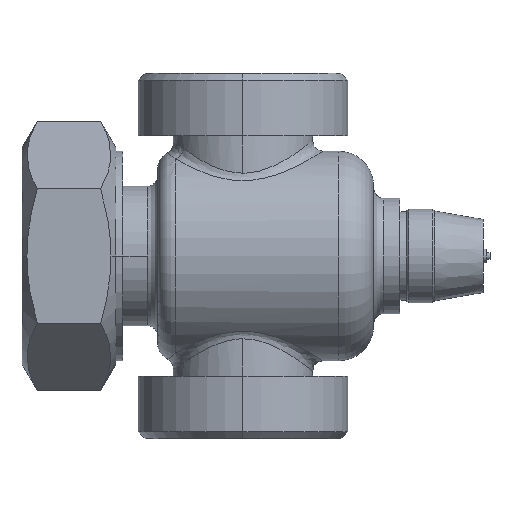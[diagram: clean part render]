
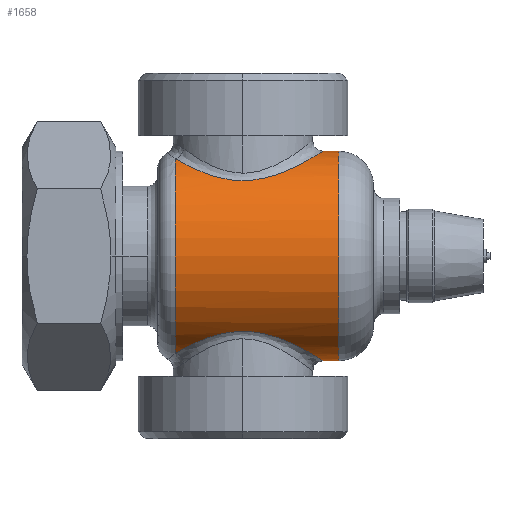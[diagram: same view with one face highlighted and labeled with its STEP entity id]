
A CAD part, left-side view. The second image highlights one B-rep face of the part: STEP entity #1658.
In plain terms, the highlighted cylindrical face has radius 30.109 mm (diameter 60.218 mm), a partial arc.
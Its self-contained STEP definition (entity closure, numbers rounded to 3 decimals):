
#936=CARTESIAN_POINT('',(0.,-23.,22.391));
#937=VERTEX_POINT('',#936);
#938=CARTESIAN_POINT('',(0.,-27.514,22.391));
#939=VERTEX_POINT('',#938);
#940=CARTESIAN_POINT('',(0.,-23.,22.391));
#941=DIRECTION('',(0.0,-1.0,0.0));
#942=VECTOR('',#941,4.514);
#943=LINE('',#940,#942);
#944=EDGE_CURVE('',#937,#939,#943,.T.);
#972=CARTESIAN_POINT('',(0.,-23.,82.609));
#973=VERTEX_POINT('',#972);
#995=CARTESIAN_POINT('',(0.,-27.514,82.609));
#996=VERTEX_POINT('',#995);
#997=CARTESIAN_POINT('',(0.,-27.514,82.609));
#998=DIRECTION('',(0.0,1.0,0.0));
#999=VECTOR('',#998,4.514);
#1000=LINE('',#997,#999);
#1001=EDGE_CURVE('',#996,#973,#1000,.T.);
#1581=CARTESIAN_POINT('',(0.,-27.514,52.5));
#1582=DIRECTION('',(0.0,-1.0,0.0));
#1583=DIRECTION('',(-1.0,0.0,0.0));
#1584=AXIS2_PLACEMENT_3D('',#1581,#1582,#1583);
#1585=CIRCLE('',#1584,30.109);
#1586=EDGE_CURVE('',#996,#939,#1585,.T.);
#1593=CARTESIAN_POINT('',(0.,-8.94,52.5));
#1594=DIRECTION('',(0.0,-1.0,0.));
#1595=DIRECTION('',(0.0,0.0,-1.0));
#1596=AXIS2_PLACEMENT_3D('',#1593,#1594,#1595);
#1597=CYLINDRICAL_SURFACE('',#1596,30.109);
#1598=ORIENTED_EDGE('',*,*,#944,.T.);
#1599=ORIENTED_EDGE('',*,*,#1586,.F.);
#1600=ORIENTED_EDGE('',*,*,#1001,.T.);
#1601=CARTESIAN_POINT('',(-11.082,19.507,80.496));
#1602=VERTEX_POINT('',#1601);
#1603=CARTESIAN_POINT('',(0.,-23.,82.609));
#1604=CARTESIAN_POINT('',(-0.005,-23.,82.609));
#1605=CARTESIAN_POINT('',(-0.01,-23.,82.609));
#1606=CARTESIAN_POINT('',(-1.623,-22.999,82.608));
#1607=CARTESIAN_POINT('',(-3.229,-22.792,82.477));
#1608=CARTESIAN_POINT('',(-7.259,-21.752,81.829));
#1609=CARTESIAN_POINT('',(-9.573,-20.623,81.13));
#1610=CARTESIAN_POINT('',(-14.547,-16.98,79.055));
#1611=CARTESIAN_POINT('',(-16.925,-14.07,77.489));
#1612=CARTESIAN_POINT('',(-20.33,-6.856,74.822));
#1613=CARTESIAN_POINT('',(-21.192,-2.357,73.894));
#1614=CARTESIAN_POINT('',(-20.527,5.793,74.531));
#1615=CARTESIAN_POINT('',(-19.394,9.307,75.628));
#1616=CARTESIAN_POINT('',(-16.01,15.195,78.083));
#1617=CARTESIAN_POINT('',(-13.767,17.662,79.433));
#1618=CARTESIAN_POINT('',(-11.082,19.507,80.496));
#1619=B_SPLINE_CURVE_WITH_KNOTS('',3,(#1603,#1604,#1605,#1606,#1607,#1608,#1609,#1610,#1611,#1612,#1613,#1614,#1615,#1616,#1617,#1618),.UNSPECIFIED.,.F.,.U.,(4,2,2,2,2,2,2,4),(61.748,61.764,67.06,75.533,87.911,101.23,112.513,123.529),.UNSPECIFIED.);
#1620=EDGE_CURVE('',#1602,#973,#1619,.F.);
#1621=ORIENTED_EDGE('',*,*,#1620,.F.);
#1622=CARTESIAN_POINT('',(-11.082,19.507,24.504));
#1623=VERTEX_POINT('',#1622);
#1624=CARTESIAN_POINT('',(0.,19.507,52.5));
#1625=DIRECTION('',(0.0,1.0,0.0));
#1626=DIRECTION('',(0.0,0.0,1.0));
#1627=AXIS2_PLACEMENT_3D('',#1624,#1625,#1626);
#1628=CIRCLE('',#1627,30.109);
#1629=EDGE_CURVE('',#1623,#1602,#1628,.T.);
#1630=ORIENTED_EDGE('',*,*,#1629,.F.);
#1631=CARTESIAN_POINT('',(-11.082,19.507,24.504));
#1632=CARTESIAN_POINT('',(-12.783,18.338,25.178));
#1633=CARTESIAN_POINT('',(-14.315,16.909,25.967));
#1634=CARTESIAN_POINT('',(-15.625,15.29,26.763));
#1635=CARTESIAN_POINT('',(-17.721,12.7,28.035));
#1636=CARTESIAN_POINT('',(-19.301,9.576,29.361));
#1637=CARTESIAN_POINT('',(-20.173,6.077,30.148));
#1638=CARTESIAN_POINT('',(-20.65,4.161,30.579));
#1639=CARTESIAN_POINT('',(-20.909,2.123,30.835));
#1640=CARTESIAN_POINT('',(-20.916,0.084,30.842));
#1641=CARTESIAN_POINT('',(-20.923,-1.956,30.848));
#1642=CARTESIAN_POINT('',(-20.678,-3.994,30.605));
#1643=CARTESIAN_POINT('',(-20.211,-5.92,30.183));
#1644=CARTESIAN_POINT('',(-19.535,-8.712,29.57));
#1645=CARTESIAN_POINT('',(-18.409,-11.26,28.608));
#1646=CARTESIAN_POINT('',(-16.942,-13.487,27.61));
#1647=CARTESIAN_POINT('',(-14.884,-16.613,26.209));
#1648=CARTESIAN_POINT('',(-12.104,-19.185,24.713));
#1649=CARTESIAN_POINT('',(-8.777,-20.877,23.699));
#1650=CARTESIAN_POINT('',(-6.089,-22.244,22.879));
#1651=CARTESIAN_POINT('',(-3.046,-23.,22.391));
#1652=CARTESIAN_POINT('',(0.,-23.,22.391));
#1653=B_SPLINE_CURVE_WITH_KNOTS('',3,(#1631,#1632,#1633,#1634,#1635,#1636,#1637,#1638,#1639,#1640,#1641,#1642,#1643,#1644,#1645,#1646,#1647,#1648,#1649,#1650,#1651,#1652),.UNSPECIFIED.,.F.,.U.,(4,3,3,3,3,3,3,4),(0.,6.979,18.146,24.262,30.378,39.245,51.692,61.748),.UNSPECIFIED.);
#1654=EDGE_CURVE('',#937,#1623,#1653,.F.);
#1655=ORIENTED_EDGE('',*,*,#1654,.F.);
#1656=EDGE_LOOP('',(#1598,#1599,#1600,#1621,#1630,#1655));
#1657=FACE_OUTER_BOUND('',#1656,.T.);
#1658=ADVANCED_FACE('',(#1657),#1597,.T.);
